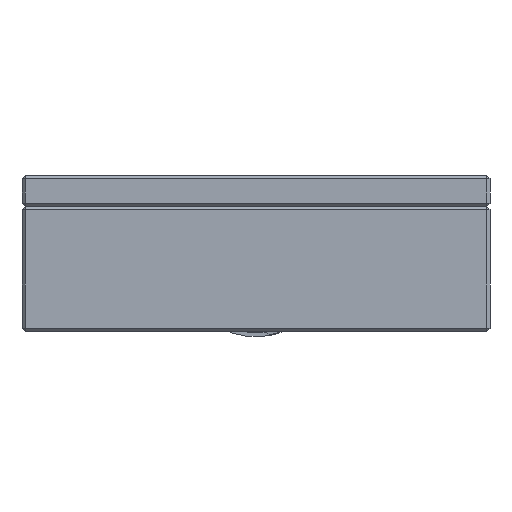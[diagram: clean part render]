
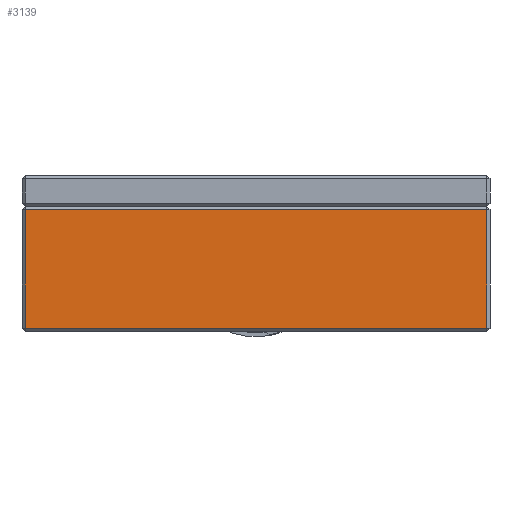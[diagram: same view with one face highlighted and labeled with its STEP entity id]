
A CAD part, front view. The second image highlights one B-rep face of the part: STEP entity #3139.
In plain terms, the highlighted planar face has unit normal (0, -1, 0).
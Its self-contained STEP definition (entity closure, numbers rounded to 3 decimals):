
#3 = VERTEX_POINT ( 'NONE', #548 ) ;
#73 = ORIENTED_EDGE ( 'NONE', *, *, #2187, .T. ) ;
#80 = VECTOR ( 'NONE', #3790, 1000. ) ;
#233 = ORIENTED_EDGE ( 'NONE', *, *, #476, .T. ) ;
#270 = VERTEX_POINT ( 'NONE', #2405 ) ;
#352 = LINE ( 'NONE', #781, #715 ) ;
#476 = EDGE_CURVE ( 'NONE', #4170, #3, #493, .T. ) ;
#493 = LINE ( 'NONE', #2137, #80 ) ;
#532 = CARTESIAN_POINT ( 'NONE',  ( -29.8, -60., 8. ) ) ;
#548 = CARTESIAN_POINT ( 'NONE',  ( -0.2, -60., 0.2 ) ) ;
#715 = VECTOR ( 'NONE', #1990, 1000. ) ;
#776 = CARTESIAN_POINT ( 'NONE',  ( -0.2, -60., 8. ) ) ;
#781 = CARTESIAN_POINT ( 'NONE',  ( 0., -60., 7.8 ) ) ;
#798 = EDGE_CURVE ( 'NONE', #270, #4170, #1773, .T. ) ;
#813 = FACE_OUTER_BOUND ( 'NONE', #3113, .T. ) ;
#1252 = DIRECTION ( 'NONE',  ( 0., 0., -1. ) ) ;
#1327 = EDGE_CURVE ( 'NONE', #3, #2131, #3619, .T. ) ;
#1650 = DIRECTION ( 'NONE',  ( 0., 1., 0. ) ) ;
#1669 = ORIENTED_EDGE ( 'NONE', *, *, #798, .T. ) ;
#1773 = LINE ( 'NONE', #532, #2290 ) ;
#1990 = DIRECTION ( 'NONE',  ( -1., 0., 0. ) ) ;
#2116 = VECTOR ( 'NONE', #3181, 1000. ) ;
#2131 = VERTEX_POINT ( 'NONE', #2450 ) ;
#2137 = CARTESIAN_POINT ( 'NONE',  ( 0., -60., 0.2 ) ) ;
#2187 = EDGE_CURVE ( 'NONE', #2131, #270, #352, .T. ) ;
#2290 = VECTOR ( 'NONE', #3452, 1000. ) ;
#2358 = AXIS2_PLACEMENT_3D ( 'NONE', #3714, #1650, #1252 ) ;
#2405 = CARTESIAN_POINT ( 'NONE',  ( -29.8, -60., 7.8 ) ) ;
#2450 = CARTESIAN_POINT ( 'NONE',  ( -0.2, -60., 7.8 ) ) ;
#2701 = ORIENTED_EDGE ( 'NONE', *, *, #1327, .T. ) ;
#3113 = EDGE_LOOP ( 'NONE', ( #233, #2701, #73, #1669 ) ) ;
#3139 = ADVANCED_FACE ( 'NONE', ( #813 ), #4539, .F. ) ;
#3181 = DIRECTION ( 'NONE',  ( 0., 0., 1. ) ) ;
#3452 = DIRECTION ( 'NONE',  ( 0., 0., -1. ) ) ;
#3619 = LINE ( 'NONE', #776, #2116 ) ;
#3714 = CARTESIAN_POINT ( 'NONE',  ( 0., -60., 8. ) ) ;
#3790 = DIRECTION ( 'NONE',  ( 1., 0., 0. ) ) ;
#4170 = VERTEX_POINT ( 'NONE', #4365 ) ;
#4365 = CARTESIAN_POINT ( 'NONE',  ( -29.8, -60., 0.2 ) ) ;
#4539 = PLANE ( 'NONE',  #2358 ) ;
